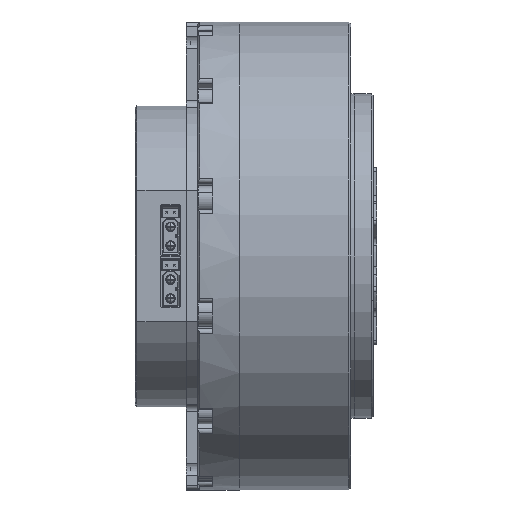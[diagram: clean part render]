
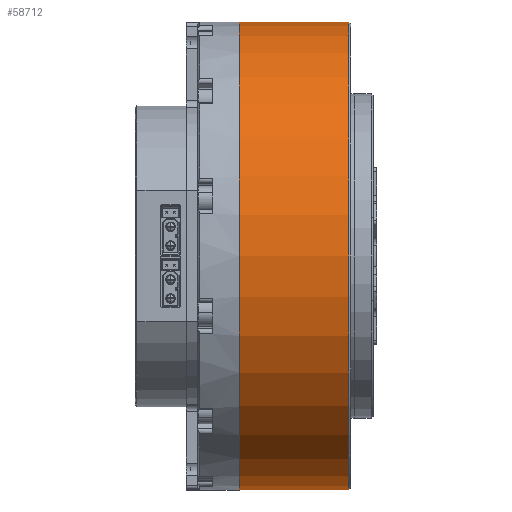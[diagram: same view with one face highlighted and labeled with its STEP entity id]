
A CAD part, left-side view. The second image highlights one B-rep face of the part: STEP entity #58712.
In plain terms, the highlighted cylindrical face has radius 62 mm (diameter 124 mm), a partial arc.
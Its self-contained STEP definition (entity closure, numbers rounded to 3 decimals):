
#4649 = CYLINDRICAL_SURFACE ( 'NONE', #49899, 62. ) ;
#6833 = DIRECTION ( 'NONE',  ( 0., -1., 0. ) ) ;
#7171 = CARTESIAN_POINT ( 'NONE',  ( 0., 31.5, 62. ) ) ;
#13460 = CIRCLE ( 'NONE', #105222, 62. ) ;
#13602 = FACE_OUTER_BOUND ( 'NONE', #43829, .T. ) ;
#15303 = CARTESIAN_POINT ( 'NONE',  ( 0., 31.5, -62. ) ) ;
#23420 = ORIENTED_EDGE ( 'NONE', *, *, #39723, .T. ) ;
#27947 = VERTEX_POINT ( 'NONE', #7171 ) ;
#39723 = EDGE_CURVE ( 'NONE', #41592, #80557, #88153, .T. ) ;
#39799 = ORIENTED_EDGE ( 'NONE', *, *, #103658, .F. ) ;
#41592 = VERTEX_POINT ( 'NONE', #51707 ) ;
#43829 = EDGE_LOOP ( 'NONE', ( #83701, #39799, #63880, #23420 ) ) ;
#48265 = VERTEX_POINT ( 'NONE', #15303 ) ;
#49899 = AXIS2_PLACEMENT_3D ( 'NONE', #67481, #114108, #103398 ) ;
#51707 = CARTESIAN_POINT ( 'NONE',  ( 0., 2.5, -62. ) ) ;
#51935 = DIRECTION ( 'NONE',  ( 0., 1., 0. ) ) ;
#53113 = CARTESIAN_POINT ( 'NONE',  ( 0., 2.5, 0. ) ) ;
#53458 = CARTESIAN_POINT ( 'NONE',  ( 0., 0., -62. ) ) ;
#55516 = CARTESIAN_POINT ( 'NONE',  ( 0., 0., 62. ) ) ;
#58712 = ADVANCED_FACE ( 'NONE', ( #13602 ), #4649, .T. ) ;
#60678 = CARTESIAN_POINT ( 'NONE',  ( 0., 31.5, 0. ) ) ;
#63880 = ORIENTED_EDGE ( 'NONE', *, *, #68067, .T. ) ;
#67481 = CARTESIAN_POINT ( 'NONE',  ( 0., 0., 0. ) ) ;
#68067 = EDGE_CURVE ( 'NONE', #48265, #41592, #70859, .T. ) ;
#70859 = LINE ( 'NONE', #53458, #105155 ) ;
#73470 = LINE ( 'NONE', #55516, #78534 ) ;
#78534 = VECTOR ( 'NONE', #91990, 1000. ) ;
#78641 = AXIS2_PLACEMENT_3D ( 'NONE', #53113, #51935, #79493 ) ;
#79493 = DIRECTION ( 'NONE',  ( 0., 0., 1. ) ) ;
#80557 = VERTEX_POINT ( 'NONE', #105419 ) ;
#83701 = ORIENTED_EDGE ( 'NONE', *, *, #84955, .F. ) ;
#84955 = EDGE_CURVE ( 'NONE', #27947, #80557, #73470, .T. ) ;
#88153 = CIRCLE ( 'NONE', #78641, 62. ) ;
#91990 = DIRECTION ( 'NONE',  ( 0., -1., 0. ) ) ;
#97166 = DIRECTION ( 'NONE',  ( 0., 1., 0. ) ) ;
#103398 = DIRECTION ( 'NONE',  ( 0., 0., -1. ) ) ;
#103658 = EDGE_CURVE ( 'NONE', #48265, #27947, #13460, .T. ) ;
#104971 = DIRECTION ( 'NONE',  ( 0., 0., 1. ) ) ;
#105155 = VECTOR ( 'NONE', #6833, 1000. ) ;
#105222 = AXIS2_PLACEMENT_3D ( 'NONE', #60678, #97166, #104971 ) ;
#105419 = CARTESIAN_POINT ( 'NONE',  ( 0., 2.5, 62. ) ) ;
#114108 = DIRECTION ( 'NONE',  ( 0., -1., 0. ) ) ;
